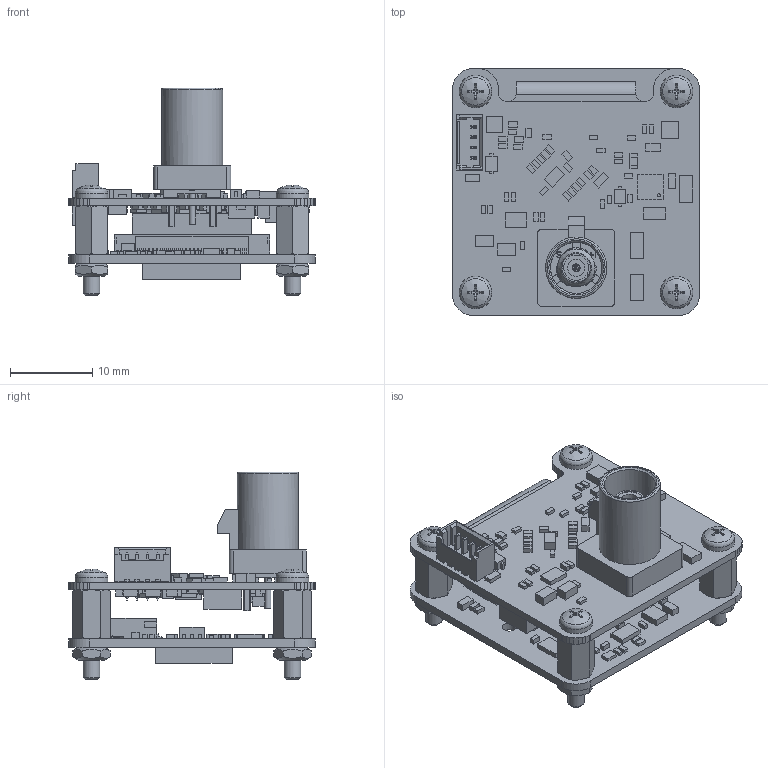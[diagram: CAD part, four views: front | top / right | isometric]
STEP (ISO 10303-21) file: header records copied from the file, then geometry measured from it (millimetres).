
FILE_DESCRIPTION(/* description */ ('289-20-2-10-00'),/* implementation_level */ '2;1');
FILE_NAME(/* name */ 'D:\HiDrive\1_Konstruktion\1_KUNDEN\TIS\289-20_MIPI-Dokumentation\289-20-2-10-00_CX-R120_IMX290-R100.stp',/* time_stamp */ '2020-12-17T08:42:09+01:00',/* author */ ('Westermann'),/* organization */ ('TIS, Bremen-Germany'),/* preprocessor_version */ 'ST-DEVELOPER v16.5',/* originating_system */ 'Autodesk Inventor 2017',/* authorisation */ '');
FILE_SCHEMA (('AUTOMOTIVE_DESIGN { 1 0 10303 214 3 1 1 }'));
Length unit declared in the file: millimetre
Products named in the file (6): 289-20-2-10-00_CX-R120_IMX290-R100; ISO 4032 - M2; ISO 7045 - M2 x 4 - 4.8 - H; IMX290_MIPI_HB_R1_00; TISMIPI_SER953_R1-20; Distanzbolzen-IA-M2x6_0100018_SIBALCO
Assembly tree (14 placements, depth 2):
  289-20-2-10-00_CX-R120_IMX290-R100
    ISO 4032 - M2  x4
    ISO 7045 - M2 x 4 - 4.8 - H  x4
    IMX290_MIPI_HB_R1_00
    TISMIPI_SER953_R1-20
    Distanzbolzen-IA-M2x6_0100018_SIBALCO  x4
Bounding box: 30.1 x 30.1 x 25.34 mm (x, y, z)
Volume: 3415.4 mm3; surface area: 7717.5 mm2
Topology: 17 solids, 19 shells, 3457 faces, 9386 edges, 6101 vertices
Faces by surface type: plane 2992, cylinder 294, cone 138, torus 29, sphere 4
Full cylindrical faces by diameter (mm): 0.388 x1, 0.5 x5, 0.613 x1, 0.75 x1, 0.95 x2, 1.2 x1, 1.4 x4, 1.567 x8, 1.7 x2, 1.783 x4, 2 x8, 2.08 x1, 2.1 x8, 3.05 x2, 3.2 x1, 3.68 x1, 3.8 x1, 4.35 x1, 4.6 x1, 6.25 x1, 7.45 x1
Entity records: 104327 total; most frequent: CARTESIAN_POINT 18008, ORIENTED_EDGE 17626, DIRECTION 15955, EDGE_CURVE 8813, LINE 8073, VECTOR 8073, VERTEX_POINT 5780, AXIS2_PLACEMENT_3D 3941
